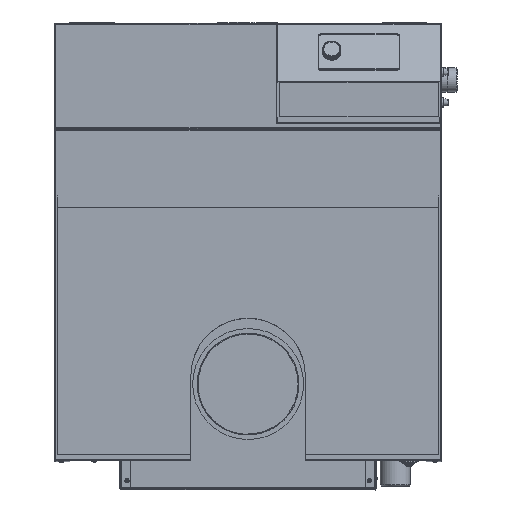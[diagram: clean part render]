
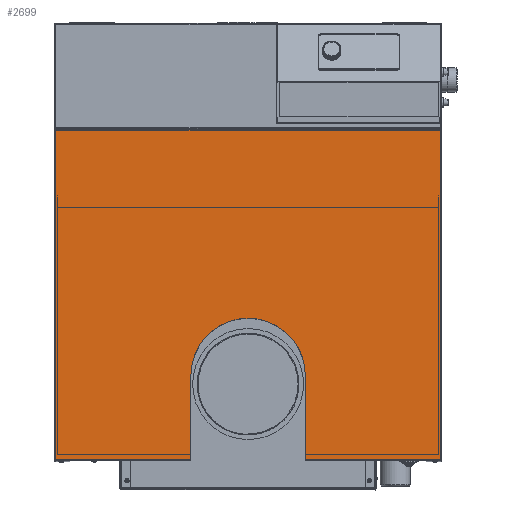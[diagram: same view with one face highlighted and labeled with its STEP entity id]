
A CAD part, top view. The second image highlights one B-rep face of the part: STEP entity #2699.
In plain terms, the highlighted planar face has unit normal (0, 0, 1).
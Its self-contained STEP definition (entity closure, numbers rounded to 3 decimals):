
#2699=ADVANCED_FACE('',(#27746),#27748,.T.);
#27746=FACE_BOUND('',#27747,.T.);
#27747=EDGE_LOOP('',(#74685,#74686,#74687,#74688,#74689,#74690,#74691,#74692));
#27748=PLANE('',#27749);
#27749=AXIS2_PLACEMENT_3D('',#27750,#27751,#27752);
#27750=CARTESIAN_POINT('',(0.,-43.5,870.5));
#27751=DIRECTION('',(0.,0.,1.));
#27752=DIRECTION('',(1.,0.,0.));
#74685=ORIENTED_EDGE('',*,*,#97337,.T.);
#74686=ORIENTED_EDGE('',*,*,#97338,.T.);
#74687=ORIENTED_EDGE('',*,*,#97339,.T.);
#74688=ORIENTED_EDGE('',*,*,#97340,.T.);
#74689=ORIENTED_EDGE('',*,*,#96473,.T.);
#74690=ORIENTED_EDGE('',*,*,#96455,.T.);
#74691=ORIENTED_EDGE('',*,*,#97341,.T.);
#74692=ORIENTED_EDGE('',*,*,#97342,.T.);
#96455=EDGE_CURVE('',#114802,#114800,#114803,.T.);
#96473=EDGE_CURVE('',#114827,#114802,#114830,.T.);
#97337=EDGE_CURVE('',#116311,#116312,#116313,.F.);
#97338=EDGE_CURVE('',#116312,#116314,#116315,.F.);
#97339=EDGE_CURVE('',#116314,#115131,#116316,.F.);
#97340=EDGE_CURVE('',#115131,#114827,#116317,.T.);
#97341=EDGE_CURVE('',#114800,#116318,#116319,.T.);
#97342=EDGE_CURVE('',#116318,#116311,#116320,.T.);
#114800=VERTEX_POINT('',#157032);
#114802=VERTEX_POINT('',#157050);
#114803=LINE('',#157051,#157052);
#114827=VERTEX_POINT('',#157167);
#114830=LINE('',#157193,#157194);
#115131=VERTEX_POINT('',#158479);
#116311=VERTEX_POINT('',#162324);
#116312=VERTEX_POINT('',#162325);
#116313=LINE('',#162326,#162327);
#116314=VERTEX_POINT('',#162329);
#116315=CIRCLE('',#162330,112.5);
#116316=LINE('',#162334,#162335);
#116317=LINE('',#162337,#162338);
#116318=VERTEX_POINT('',#162340);
#116319=LINE('',#162341,#162342);
#116320=LINE('',#162344,#162345);
#157032=CARTESIAN_POINT('',(-378.,280.,870.5));
#157050=CARTESIAN_POINT('',(378.,280.,870.5));
#157051=CARTESIAN_POINT('',(378.,280.,870.5));
#157052=VECTOR('',#157053,1.);
#157053=DIRECTION('',(-1.,0.,0.));
#157167=CARTESIAN_POINT('',(378.,-367.,870.5));
#157193=CARTESIAN_POINT('',(378.,-367.,870.5));
#157194=VECTOR('',#157195,1.);
#157195=DIRECTION('',(0.,1.,0.));
#158479=CARTESIAN_POINT('',(112.5,-367.,870.5));
#162324=CARTESIAN_POINT('',(-112.5,-367.,870.5));
#162325=CARTESIAN_POINT('',(-112.5,-202.,870.5));
#162326=CARTESIAN_POINT('',(-112.5,-202.,870.5));
#162327=VECTOR('',#162328,1.);
#162328=DIRECTION('',(0.,-1.,0.));
#162329=CARTESIAN_POINT('',(112.5,-202.,870.5));
#162330=AXIS2_PLACEMENT_3D('',#162331,#162332,#162333);
#162331=CARTESIAN_POINT('',(0.,-202.,870.5));
#162332=DIRECTION('',(0.,0.,1.));
#162333=DIRECTION('',(1.,0.,0.));
#162334=CARTESIAN_POINT('',(112.5,-367.,870.5));
#162335=VECTOR('',#162336,1.);
#162336=DIRECTION('',(0.,1.,0.));
#162337=CARTESIAN_POINT('',(112.5,-367.,870.5));
#162338=VECTOR('',#162339,1.);
#162339=DIRECTION('',(1.,0.,0.));
#162340=CARTESIAN_POINT('',(-378.,-367.,870.5));
#162341=CARTESIAN_POINT('',(-378.,280.,870.5));
#162342=VECTOR('',#162343,1.);
#162343=DIRECTION('',(0.,-1.,0.));
#162344=CARTESIAN_POINT('',(-378.,-367.,870.5));
#162345=VECTOR('',#162346,1.);
#162346=DIRECTION('',(1.,0.,0.));
